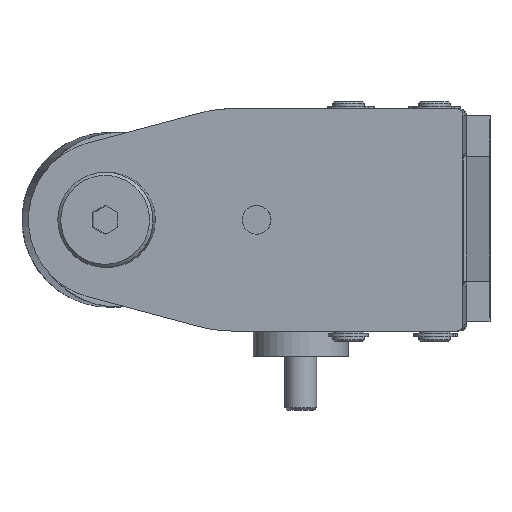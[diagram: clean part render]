
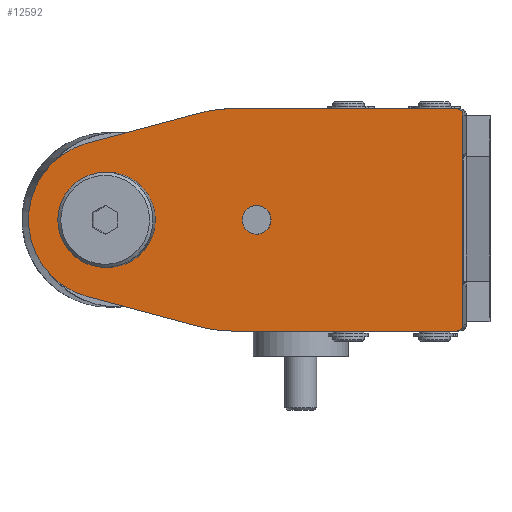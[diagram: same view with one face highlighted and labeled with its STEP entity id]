
A CAD part, left-side view. The second image highlights one B-rep face of the part: STEP entity #12592.
In plain terms, the highlighted planar face has unit normal (-0.999, 0.055, 0).
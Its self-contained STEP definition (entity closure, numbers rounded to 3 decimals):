
#228=FACE_BOUND('',#3957,.T.);
#229=FACE_BOUND('',#3958,.T.);
#1095=LINE('',#25315,#1945);
#1121=LINE('',#25616,#1971);
#1132=LINE('',#25641,#1982);
#1133=LINE('',#25645,#1983);
#1134=LINE('',#25649,#1984);
#1945=VECTOR('',#17385,10.);
#1971=VECTOR('',#17623,10.);
#1982=VECTOR('',#17656,10.);
#1983=VECTOR('',#17659,10.);
#1984=VECTOR('',#17662,10.);
#2570=PLANE('',#14045);
#3189=FACE_OUTER_BOUND('',#3956,.T.);
#3956=EDGE_LOOP('',(#11149,#11150,#11151,#11152,#11153,#11154,#11155,#11156,
#11157,#11158));
#3957=EDGE_LOOP('',(#11159));
#3958=EDGE_LOOP('',(#11160));
#4240=CIRCLE('',#13022,15.);
#4306=CIRCLE('',#13145,4.5);
#4794=CIRCLE('',#14026,2.);
#4795=CIRCLE('',#14028,2.);
#4800=CIRCLE('',#14046,40.);
#4801=CIRCLE('',#14047,25.);
#4802=CIRCLE('',#14048,40.);
#5144=VERTEX_POINT('',#22662);
#5290=VERTEX_POINT('',#23167);
#5935=VERTEX_POINT('',#25312);
#5936=VERTEX_POINT('',#25314);
#5993=VERTEX_POINT('',#25600);
#5994=VERTEX_POINT('',#25604);
#5995=VERTEX_POINT('',#25615);
#5998=VERTEX_POINT('',#25640);
#5999=VERTEX_POINT('',#25642);
#6000=VERTEX_POINT('',#25644);
#6001=VERTEX_POINT('',#25646);
#6002=VERTEX_POINT('',#25648);
#6476=EDGE_CURVE('',#5144,#5144,#4240,.T.);
#6664=EDGE_CURVE('',#5290,#5290,#4306,.T.);
#7639=EDGE_CURVE('',#5935,#5936,#1095,.T.);
#7737=EDGE_CURVE('',#5936,#5993,#4794,.T.);
#7739=EDGE_CURVE('',#5994,#5935,#4795,.T.);
#7745=EDGE_CURVE('',#5995,#5993,#1121,.T.);
#7758=EDGE_CURVE('',#5994,#5998,#1132,.T.);
#7759=EDGE_CURVE('',#5998,#5999,#4800,.T.);
#7760=EDGE_CURVE('',#5999,#6000,#1133,.T.);
#7761=EDGE_CURVE('',#6000,#6001,#4801,.T.);
#7762=EDGE_CURVE('',#6001,#6002,#1134,.T.);
#7763=EDGE_CURVE('',#6002,#5995,#4802,.T.);
#11149=ORIENTED_EDGE('',*,*,#7737,.F.);
#11150=ORIENTED_EDGE('',*,*,#7639,.F.);
#11151=ORIENTED_EDGE('',*,*,#7739,.F.);
#11152=ORIENTED_EDGE('',*,*,#7758,.T.);
#11153=ORIENTED_EDGE('',*,*,#7759,.T.);
#11154=ORIENTED_EDGE('',*,*,#7760,.T.);
#11155=ORIENTED_EDGE('',*,*,#7761,.T.);
#11156=ORIENTED_EDGE('',*,*,#7762,.T.);
#11157=ORIENTED_EDGE('',*,*,#7763,.T.);
#11158=ORIENTED_EDGE('',*,*,#7745,.T.);
#11159=ORIENTED_EDGE('',*,*,#6476,.T.);
#11160=ORIENTED_EDGE('',*,*,#6664,.T.);
#12592=ADVANCED_FACE('',(#3189,#228,#229),#2570,.T.);
#13022=AXIS2_PLACEMENT_3D('',#22663,#14966,#14967);
#13145=AXIS2_PLACEMENT_3D('',#23168,#15309,#15310);
#14026=AXIS2_PLACEMENT_3D('',#25601,#17601,#17602);
#14028=AXIS2_PLACEMENT_3D('',#25605,#17606,#17607);
#14045=AXIS2_PLACEMENT_3D('',#25639,#17654,#17655);
#14046=AXIS2_PLACEMENT_3D('',#25643,#17657,#17658);
#14047=AXIS2_PLACEMENT_3D('',#25647,#17660,#17661);
#14048=AXIS2_PLACEMENT_3D('',#25650,#17663,#17664);
#14966=DIRECTION('center_axis',(0.998,-0.055,0.));
#14967=DIRECTION('ref_axis',(0.055,0.998,0.));
#15309=DIRECTION('center_axis',(0.998,-0.055,0.));
#15310=DIRECTION('ref_axis',(-0.055,-0.998,0.));
#17385=DIRECTION('',(0.,0.,-1.));
#17601=DIRECTION('center_axis',(0.998,-0.055,0.));
#17602=DIRECTION('ref_axis',(-0.055,-0.998,0.));
#17606=DIRECTION('center_axis',(0.998,-0.055,0.));
#17607=DIRECTION('ref_axis',(0.,0.,1.));
#17623=DIRECTION('',(-0.055,-0.998,0.));
#17654=DIRECTION('center_axis',(-0.998,0.055,0.));
#17655=DIRECTION('ref_axis',(0.,0.,1.));
#17656=DIRECTION('',(0.055,0.998,0.));
#17657=DIRECTION('center_axis',(-0.998,0.055,0.));
#17658=DIRECTION('ref_axis',(0.,0.,
-1.));
#17659=DIRECTION('',(0.054,0.964,-0.259));
#17660=DIRECTION('center_axis',(-0.998,0.055,0.));
#17661=DIRECTION('ref_axis',(-0.014,-0.258,-0.966));
#17662=DIRECTION('',(-0.054,-0.964,-0.259));
#17663=DIRECTION('center_axis',(-0.998,0.055,0.));
#17664=DIRECTION('ref_axis',(-0.014,-0.258,0.966));
#22662=CARTESIAN_POINT('',(-45.649,70.795,0.));
#22663=CARTESIAN_POINT('Origin',(-44.817,85.772,0.));
#23167=CARTESIAN_POINT('',(-47.174,43.337,0.));
#23168=CARTESIAN_POINT('Origin',(-47.423,38.844,0.));
#25312=CARTESIAN_POINT('',(-51.027,-26.056,33.));
#25314=CARTESIAN_POINT('',(-51.027,-26.056,-33.));
#25315=CARTESIAN_POINT('',(-51.027,-26.056,0.));
#25600=CARTESIAN_POINT('',(-50.916,-24.059,-35.));
#25601=CARTESIAN_POINT('Origin',(-50.916,-24.059,-33.));
#25604=CARTESIAN_POINT('',(-50.916,-24.059,35.));
#25605=CARTESIAN_POINT('Origin',(-50.916,-24.059,33.));
#25615=CARTESIAN_POINT('',(-46.996,46.537,-35.));
#25616=CARTESIAN_POINT('',(-43.431,110.733,-35.));
#25639=CARTESIAN_POINT('Origin',(-51.027,-26.056,0.));
#25640=CARTESIAN_POINT('',(-46.996,46.537,35.));
#25641=CARTESIAN_POINT('',(-43.431,110.733,35.));
#25642=CARTESIAN_POINT('',(-46.422,56.874,33.637));
#25643=CARTESIAN_POINT('Origin',(-46.996,46.537,-5.));
#25644=CARTESIAN_POINT('',(-44.459,92.232,24.148));
#25645=CARTESIAN_POINT('',(-47.355,40.064,38.148));
#25646=CARTESIAN_POINT('',(-44.459,92.232,-24.148));
#25647=CARTESIAN_POINT('Origin',(-44.817,85.772,0.));
#25648=CARTESIAN_POINT('',(-46.422,56.874,-33.637));
#25649=CARTESIAN_POINT('',(-48.337,22.385,-42.893));
#25650=CARTESIAN_POINT('Origin',(-46.996,46.537,5.));
